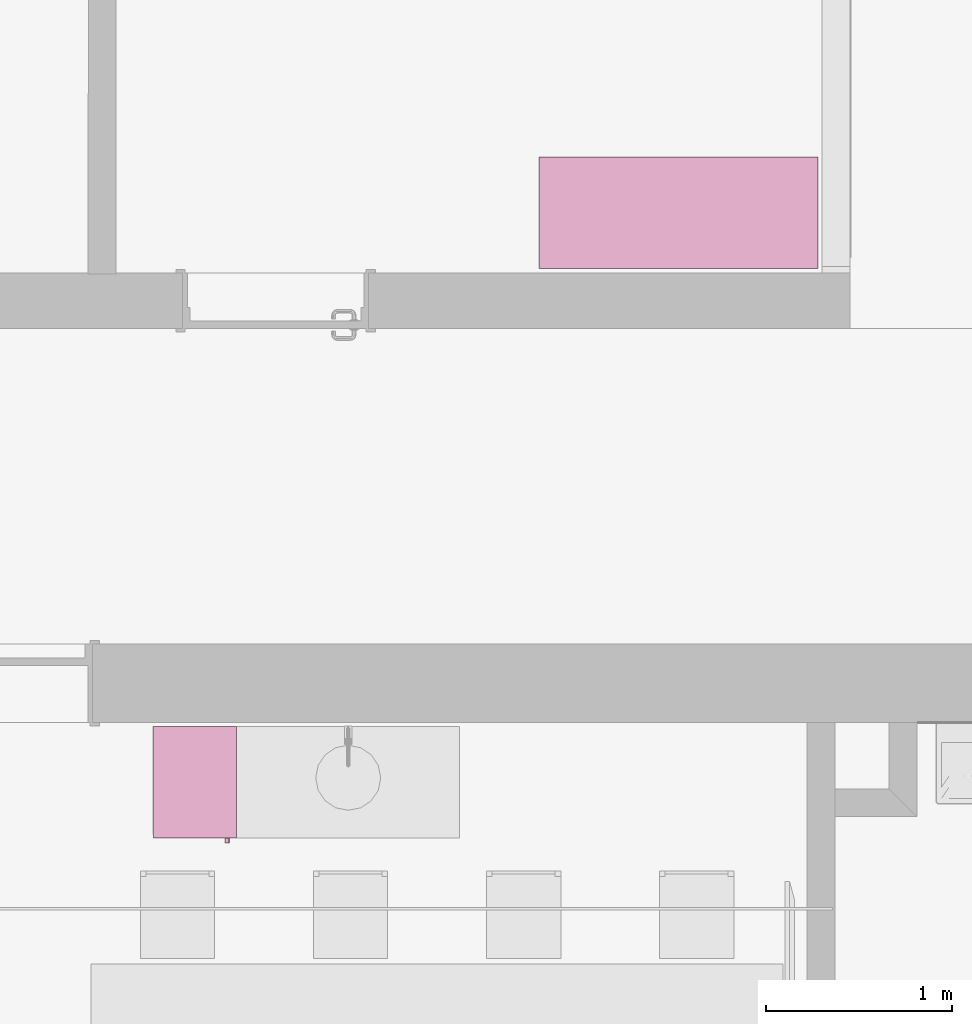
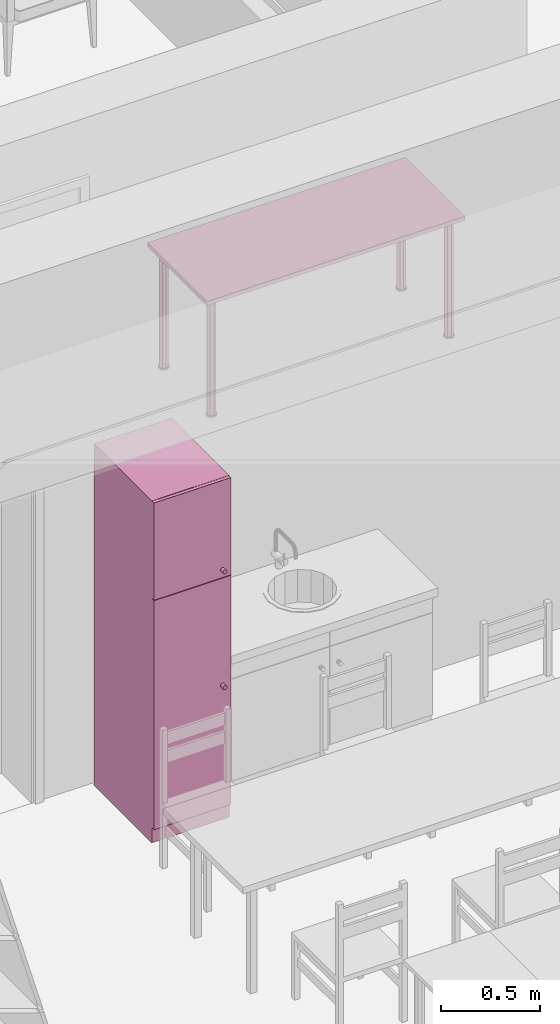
# One storey, part 137 of 194: 2 furnishings.
"""IFC2X3 building model written with IfcOpenShell, lengths in millimetres."""

from ifc_helpers import new_model, entity, si_unit, converted_unit, derived_unit, money_unit, direction, frame, origin_with_axes, place, context, subcontext, project, spatial, faceted_brep, source, transform, mapped, type_object, element, save


model = new_model("IFC2X3")

# Units and contexts
model_context = context("Model", 3, precision=1e-05, world=origin_with_axes(), true_north=direction((0.0, 1.0)))
body_context = subcontext(model_context, "Body", "Model", "MODEL_VIEW")
ifc_project = project(units=[si_unit("LENGTHUNIT", "METRE", prefix="MILLI"), si_unit("AREAUNIT", "SQUARE_METRE"), si_unit("VOLUMEUNIT", "CUBIC_METRE"), converted_unit("PLANEANGLEUNIT", "DEGREE", entity("IfcPlaneAngleMeasure", 0.0174532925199), si_unit("PLANEANGLEUNIT", "RADIAN"), dimensions=[0, 0, 0, 0, 0, 0, 0]), si_unit("SOLIDANGLEUNIT", "STERADIAN"), money_unit("EUR"), converted_unit("TIMEUNIT", "Year", entity("IfcTimeMeasure", 31556926.0), si_unit("TIMEUNIT", "SECOND"), dimensions=[0, 0, 1, 0, 0, 0, 0]), si_unit("MASSUNIT", "GRAM", prefix="KILO"), si_unit("THERMODYNAMICTEMPERATUREUNIT", "DEGREE_CELSIUS"), si_unit("LUMINOUSINTENSITYUNIT", "LUMEN"), si_unit("ENERGYUNIT", "JOULE", prefix="MEGA"), derived_unit("THERMALCONDUCTANCEUNIT", [(si_unit("POWERUNIT", "WATT"), 1), (si_unit("LENGTHUNIT", "METRE"), -1), (si_unit("THERMODYNAMICTEMPERATUREUNIT", "KELVIN"), -1)]), derived_unit("SPECIFICHEATCAPACITYUNIT", [(si_unit("ENERGYUNIT", "JOULE"), 1), (si_unit("MASSUNIT", "GRAM", prefix="KILO"), -1), (si_unit("THERMODYNAMICTEMPERATUREUNIT", "KELVIN"), -1)]), derived_unit("MASSDENSITYUNIT", [(si_unit("MASSUNIT", "GRAM", prefix="KILO"), 1), (si_unit("VOLUMEUNIT", "CUBIC_METRE"), -1)])], contexts=[model_context])

# Site, building, storey
site_placement = place(None, origin_with_axes())
site = spatial("IfcSite", under=ifc_project, at=site_placement, Name="Site", CompositionType="ELEMENT")
building_placement = place(site_placement, origin_with_axes())
building = spatial("IfcBuilding", under=site, at=building_placement, Name="Building", CompositionType="ELEMENT")
storey_placement = place(building_placement, frame((0.0, 0.0, 3000.0), z_axis=(0.0, 0.0, 1.0), x_axis=(1.0, 0.0, 0.0)))
storey = spatial("IfcBuildingStorey", under=building, at=storey_placement, Name="2 KORRUS", CompositionType="ELEMENT", Elevation=3000.0)

# Furnishings
furnishing_element_type_1 = type_object("IfcFurnishingElementType", Name="Model Element 57")
shared_shape_1 = source(origin_with_axes(), body_context, "Body", "Brep", [
    faceted_brep([(20.0, 20.0, 1490.0), (430.0, 20.0, 1490.0), (430.0, 20.0, 1510.0), (20.0, 20.0, 1510.0), (20.0, 580.0, 1490.0), (430.0, 580.0, 1490.0), (430.0, 580.0, 1510.0), (20.0, 580.0, 1510.0)], [[[0, 1, 2, 3]], [[0, 4, 5, 1]], [[1, 5, 6, 2]], [[3, 2, 6, 7]], [[4, 0, 3, 7]], [[5, 4, 7, 6]]]),
    faceted_brep([(0.0, 20.0, 0.0), (450.0, 20.0, 0.0), (450.0, 20.0, 90.0), (0.0, 20.0, 90.0), (0.0, 600.0, 0.0), (450.0, 600.0, 0.0), (450.0, 600.0, 90.0), (0.0, 600.0, 90.0)], [[[0, 1, 2, 3]], [[0, 4, 5, 1]], [[1, 5, 6, 2]], [[3, 2, 6, 7]], [[4, 0, 3, 7]], [[5, 4, 7, 6]]]),
    faceted_brep([(0.0, 20.0, 2080.0), (20.0, 20.0, 2080.0), (20.0, 20.0, 2100.0), (0.0, 20.0, 2100.0), (0.0, 600.0, 2080.0), (20.0, 600.0, 2080.0), (430.0, 600.0, 2080.0), (450.0, 600.0, 2080.0), (450.0, 20.0, 2080.0), (430.0, 20.0, 2080.0), (430.0, 20.0, 2100.0), (450.0, 20.0, 2100.0), (450.0, 600.0, 2100.0), (430.0, 600.0, 2100.0), (20.0, 600.0, 2100.0), (0.0, 600.0, 2100.0)], [[[0, 1, 2, 3]], [[0, 4, 5, 6, 7, 8, 9, 1]], [[1, 9, 10, 2]], [[3, 2, 10, 11, 12, 13, 14, 15]], [[4, 0, 3, 15]], [[5, 4, 15, 14]], [[6, 5, 14, 13]], [[7, 6, 13, 12]], [[8, 7, 12, 11]], [[9, 8, 11, 10]]]),
    faceted_brep([(0.0, 20.0, 90.0), (20.0, 20.0, 90.0), (20.0, 20.0, 110.0), (0.0, 20.0, 110.0), (0.0, 600.0, 90.0), (20.0, 600.0, 90.0), (430.0, 600.0, 90.0), (450.0, 600.0, 90.0), (450.0, 20.0, 90.0), (430.0, 20.0, 90.0), (430.0, 20.0, 110.0), (450.0, 20.0, 110.0), (450.0, 600.0, 110.0), (430.0, 600.0, 110.0), (20.0, 600.0, 110.0), (0.0, 600.0, 110.0)], [[[0, 1, 2, 3]], [[0, 4, 5, 6, 7, 8, 9, 1]], [[1, 9, 10, 2]], [[3, 2, 10, 11, 12, 13, 14, 15]], [[4, 0, 3, 15]], [[5, 4, 15, 14]], [[6, 5, 14, 13]], [[7, 6, 13, 12]], [[8, 7, 12, 11]], [[9, 8, 11, 10]]]),
    faceted_brep([(0.0, 20.0, 110.0), (20.0, 20.0, 110.0), (20.0, 20.0, 2080.0), (0.0, 20.0, 2080.0), (0.0, 600.0, 110.0), (450.0, 600.0, 110.0), (450.0, 20.0, 110.0), (430.0, 20.0, 110.0), (430.0, 580.0, 110.0), (20.0, 580.0, 110.0), (20.0, 580.0, 2080.0), (430.0, 580.0, 2080.0), (430.0, 20.0, 2080.0), (450.0, 20.0, 2080.0), (450.0, 600.0, 2080.0), (0.0, 600.0, 2080.0)], [[[0, 1, 2, 3]], [[0, 4, 5, 6, 7, 8, 9, 1]], [[1, 9, 10, 2]], [[3, 2, 10, 11, 12, 13, 14, 15]], [[4, 0, 3, 15]], [[5, 4, 15, 14]], [[6, 5, 14, 13]], [[7, 6, 13, 12]], [[8, 7, 12, 11]], [[9, 8, 11, 10]]]),
    faceted_brep([(430.0, 20.0, 546.666666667), (430.0, 580.0, 546.666666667), (430.0, 580.0, 566.666666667), (430.0, 20.0, 566.666666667), (20.0, 20.0, 546.666666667), (20.0, 580.0, 546.666666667), (20.0, 580.0, 566.666666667), (20.0, 20.0, 566.666666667)], [[[0, 1, 2, 3]], [[0, 4, 5, 1]], [[1, 5, 6, 2]], [[3, 2, 6, 7]], [[4, 0, 3, 7]], [[5, 4, 7, 6]]]),
    faceted_brep([(430.0, 20.0, 1023.33333333), (430.0, 580.0, 1023.33333333), (430.0, 580.0, 1043.33333333), (430.0, 20.0, 1043.33333333), (20.0, 20.0, 1023.33333333), (20.0, 580.0, 1023.33333333), (20.0, 580.0, 1043.33333333), (20.0, 20.0, 1043.33333333)], [[[0, 1, 2, 3]], [[0, 4, 5, 1]], [[1, 5, 6, 2]], [[3, 2, 6, 7]], [[4, 0, 3, 7]], [[5, 4, 7, 6]]]),
    faceted_brep([(1.5, 20.0, 91.5), (448.5, 20.0, 91.5), (448.5, 0.0, 91.5), (1.5, 0.0, 91.5), (1.5, 20.0, 1498.5), (448.5, 20.0, 1498.5), (448.5, 0.0, 1498.5), (1.5, 0.0, 1498.5)], [[[0, 1, 2, 3]], [[0, 4, 5, 1]], [[1, 5, 6, 2]], [[3, 2, 6, 7]], [[4, 0, 3, 7]], [[5, 4, 7, 6]]]),
    faceted_brep([(410.091109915, 0.0, 838.394171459), (408.892304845, 0.0, 835.5), (406.985281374, 0.0, 833.014718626), (404.5, 0.0, 831.107695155), (401.605828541, 0.0, 829.908890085), (398.5, 0.0, 829.5), (395.394171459, 0.0, 829.908890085), (392.5, 0.0, 831.107695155), (390.014718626, 0.0, 833.014718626), (388.107695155, 0.0, 835.5), (386.908890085, 0.0, 838.394171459), (386.5, 0.0, 841.5), (386.908890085, 0.0, 844.605828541), (388.107695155, 0.0, 847.5), (390.014718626, 0.0, 849.985281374), (392.5, 0.0, 851.892304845), (395.394171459, 0.0, 853.091109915), (398.5, 0.0, 853.5), (401.605828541, 0.0, 853.091109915), (404.5, 0.0, 851.892304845), (406.985281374, 0.0, 849.985281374), (408.892304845, 0.0, 847.5), (410.091109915, 0.0, 844.605828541), (410.5, 0.0, 841.5), (410.091109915, -25.0, 838.394171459), (408.892304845, -25.0, 835.5), (406.985281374, -25.0, 833.014718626), (404.5, -25.0, 831.107695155), (401.605828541, -25.0, 829.908890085), (398.5, -25.0, 829.5), (395.394171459, -25.0, 829.908890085), (392.5, -25.0, 831.107695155), (390.014718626, -25.0, 833.014718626), (388.107695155, -25.0, 835.5), (386.908890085, -25.0, 838.394171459), (386.5, -25.0, 841.5), (386.908890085, -25.0, 844.605828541), (388.107695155, -25.0, 847.5), (390.014718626, -25.0, 849.985281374), (392.5, -25.0, 851.892304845), (395.394171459, -25.0, 853.091109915), (398.5, -25.0, 853.5), (401.605828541, -25.0, 853.091109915), (404.5, -25.0, 851.892304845), (406.985281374, -25.0, 849.985281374), (408.892304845, -25.0, 847.5), (410.091109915, -25.0, 844.605828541), (410.5, -25.0, 841.5)], [[[0, 1, 2, 3, 4, 5, 6, 7, 8, 9, 10, 11, 12, 13, 14, 15, 16, 17, 18, 19, 20, 21, 22, 23]], [[1, 0, 24, 25]], [[2, 1, 25, 26]], [[3, 2, 26, 27]], [[4, 3, 27, 28]], [[5, 4, 28, 29]], [[6, 5, 29, 30]], [[7, 6, 30, 31]], [[8, 7, 31, 32]], [[9, 8, 32, 33]], [[10, 9, 33, 34]], [[11, 10, 34, 35]], [[12, 11, 35, 36]], [[13, 12, 36, 37]], [[14, 13, 37, 38]], [[15, 14, 38, 39]], [[16, 15, 39, 40]], [[17, 16, 40, 41]], [[18, 17, 41, 42]], [[19, 18, 42, 43]], [[20, 19, 43, 44]], [[21, 20, 44, 45]], [[22, 21, 45, 46]], [[23, 22, 46, 47]], [[0, 23, 47, 24]], [[24, 47, 46, 45, 44, 43, 42, 41, 40, 39, 38, 37, 36, 35, 34, 33, 32, 31, 30, 29, 28, 27, 26, 25]]]),
    faceted_brep([(1.5, 20.0, 1501.5), (448.5, 20.0, 1501.5), (448.5, 0.0, 1501.5), (1.5, 0.0, 1501.5), (1.5, 20.0, 2098.5), (448.5, 20.0, 2098.5), (448.5, 0.0, 2098.5), (1.5, 0.0, 2098.5)], [[[0, 1, 2, 3]], [[0, 4, 5, 1]], [[1, 5, 6, 2]], [[3, 2, 6, 7]], [[4, 0, 3, 7]], [[5, 4, 7, 6]]]),
    faceted_brep([(410.091109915, 0.0, 1548.39417146), (408.892304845, 0.0, 1545.5), (406.985281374, 0.0, 1543.01471863), (404.5, 0.0, 1541.10769515), (401.605828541, 0.0, 1539.90889008), (398.5, 0.0, 1539.5), (395.394171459, 0.0, 1539.90889008), (392.5, 0.0, 1541.10769515), (390.014718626, 0.0, 1543.01471863), (388.107695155, 0.0, 1545.5), (386.908890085, 0.0, 1548.39417146), (386.5, 0.0, 1551.5), (386.908890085, 0.0, 1554.60582854), (388.107695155, 0.0, 1557.5), (390.014718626, 0.0, 1559.98528137), (392.5, 0.0, 1561.89230485), (395.394171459, 0.0, 1563.09110992), (398.5, 0.0, 1563.5), (401.605828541, 0.0, 1563.09110992), (404.5, 0.0, 1561.89230485), (406.985281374, 0.0, 1559.98528137), (408.892304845, 0.0, 1557.5), (410.091109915, 0.0, 1554.60582854), (410.5, 0.0, 1551.5), (410.091109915, -25.0, 1548.39417146), (408.892304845, -25.0, 1545.5), (406.985281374, -25.0, 1543.01471863), (404.5, -25.0, 1541.10769515), (401.605828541, -25.0, 1539.90889008), (398.5, -25.0, 1539.5), (395.394171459, -25.0, 1539.90889008), (392.5, -25.0, 1541.10769515), (390.014718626, -25.0, 1543.01471863), (388.107695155, -25.0, 1545.5), (386.908890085, -25.0, 1548.39417146), (386.5, -25.0, 1551.5), (386.908890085, -25.0, 1554.60582854), (388.107695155, -25.0, 1557.5), (390.014718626, -25.0, 1559.98528137), (392.5, -25.0, 1561.89230485), (395.394171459, -25.0, 1563.09110992), (398.5, -25.0, 1563.5), (401.605828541, -25.0, 1563.09110992), (404.5, -25.0, 1561.89230485), (406.985281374, -25.0, 1559.98528137), (408.892304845, -25.0, 1557.5), (410.091109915, -25.0, 1554.60582854), (410.5, -25.0, 1551.5)], [[[0, 1, 2, 3, 4, 5, 6, 7, 8, 9, 10, 11, 12, 13, 14, 15, 16, 17, 18, 19, 20, 21, 22, 23]], [[1, 0, 24, 25]], [[2, 1, 25, 26]], [[3, 2, 26, 27]], [[4, 3, 27, 28]], [[5, 4, 28, 29]], [[6, 5, 29, 30]], [[7, 6, 30, 31]], [[8, 7, 31, 32]], [[9, 8, 32, 33]], [[10, 9, 33, 34]], [[11, 10, 34, 35]], [[12, 11, 35, 36]], [[13, 12, 36, 37]], [[14, 13, 37, 38]], [[15, 14, 38, 39]], [[16, 15, 39, 40]], [[17, 16, 40, 41]], [[18, 17, 41, 42]], [[19, 18, 42, 43]], [[20, 19, 43, 44]], [[21, 20, 44, 45]], [[22, 21, 45, 46]], [[23, 22, 46, 47]], [[0, 23, 47, 24]], [[24, 47, 46, 45, 44, 43, 42, 41, 40, 39, 38, 37, 36, 35, 34, 33, 32, 31, 30, 29, 28, 27, 26, 25]]]),
])
furnishing_1_placement = place(storey_placement, frame((66484.8161041, 39959.4936066, 0.0), z_axis=(0.0, 0.0, 1.0), x_axis=(1.0, 0.0, 0.0)))
element("IfcFurnishingElement", 1, at=furnishing_1_placement, inside=storey, type_object=furnishing_element_type_1, Name="FU - 016", context=body_context, shape_type="MappedRepresentation", body=[
    mapped(shared_shape_1, transform((0.0, 0.0, 0.0))),
])
furnishing_element_type_2 = type_object("IfcFurnishingElementType", Name="Model Element 54")
shared_shape_2 = source(origin_with_axes(), body_context, "Body", "Brep", [
    faceted_brep([(0.0, 0.0, 725.0), (1500.0, 0.0, 725.0), (1500.0, 0.0, 750.0), (0.0, 0.0, 750.0), (0.0, 600.0, 725.0), (1500.0, 600.0, 725.0), (1500.0, 600.0, 750.0), (0.0, 600.0, 750.0)], [[[0, 1, 2, 3]], [[0, 4, 5, 1]], [[1, 5, 6, 2]], [[3, 2, 6, 7]], [[4, 0, 3, 7]], [[5, 4, 7, 6]]]),
    faceted_brep([(77.6776695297, 77.6776695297, 10.0), (85.0, 60.0, 10.0), (77.6776695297, 42.3223304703, 10.0), (60.0, 35.0, 10.0), (42.3223304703, 42.3223304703, 10.0), (35.0, 60.0, 10.0), (42.3223304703, 77.6776695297, 10.0), (60.0, 85.0, 10.0), (77.6776695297, 77.6776695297, 725.0), (85.0, 60.0, 725.0), (77.6776695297, 42.3223304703, 725.0), (60.0, 35.0, 725.0), (42.3223304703, 42.3223304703, 725.0), (35.0, 60.0, 725.0), (42.3223304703, 77.6776695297, 725.0), (60.0, 85.0, 725.0)], [[[0, 1, 2, 3, 4, 5, 6, 7]], [[1, 0, 8, 9]], [[2, 1, 9, 10]], [[3, 2, 10, 11]], [[4, 3, 11, 12]], [[5, 4, 12, 13]], [[6, 5, 13, 14]], [[7, 6, 14, 15]], [[0, 7, 15, 8]], [[8, 15, 14, 13, 12, 11, 10, 9]]]),
    faceted_brep([(81.2132034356, 81.2132034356, 0.0), (90.0, 60.0, 0.0), (81.2132034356, 38.7867965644, 0.0), (60.0, 30.0, 0.0), (38.7867965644, 38.7867965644, 0.0), (30.0, 60.0, 0.0), (38.7867965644, 81.2132034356, 0.0), (60.0, 90.0, 0.0), (81.2132034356, 81.2132034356, 10.0), (90.0, 60.0, 10.0), (81.2132034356, 38.7867965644, 10.0), (60.0, 30.0, 10.0), (38.7867965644, 38.7867965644, 10.0), (30.0, 60.0, 10.0), (38.7867965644, 81.2132034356, 10.0), (60.0, 90.0, 10.0)], [[[0, 1, 2, 3, 4, 5, 6, 7]], [[1, 0, 8, 9]], [[2, 1, 9, 10]], [[3, 2, 10, 11]], [[4, 3, 11, 12]], [[5, 4, 12, 13]], [[6, 5, 13, 14]], [[7, 6, 14, 15]], [[0, 7, 15, 8]], [[8, 15, 14, 13, 12, 11, 10, 9]]]),
    faceted_brep([(77.6776695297, 557.67766953, 10.0), (85.0, 540.0, 10.0), (77.6776695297, 522.32233047, 10.0), (60.0, 515.0, 10.0), (42.3223304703, 522.32233047, 10.0), (35.0, 540.0, 10.0), (42.3223304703, 557.67766953, 10.0), (60.0, 565.0, 10.0), (77.6776695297, 557.67766953, 725.0), (85.0, 540.0, 725.0), (77.6776695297, 522.32233047, 725.0), (60.0, 515.0, 725.0), (42.3223304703, 522.32233047, 725.0), (35.0, 540.0, 725.0), (42.3223304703, 557.67766953, 725.0), (60.0, 565.0, 725.0)], [[[0, 1, 2, 3, 4, 5, 6, 7]], [[1, 0, 8, 9]], [[2, 1, 9, 10]], [[3, 2, 10, 11]], [[4, 3, 11, 12]], [[5, 4, 12, 13]], [[6, 5, 13, 14]], [[7, 6, 14, 15]], [[0, 7, 15, 8]], [[8, 15, 14, 13, 12, 11, 10, 9]]]),
    faceted_brep([(81.2132034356, 561.213203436, 0.0), (90.0, 540.0, 0.0), (81.2132034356, 518.786796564, 0.0), (60.0, 510.0, 0.0), (38.7867965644, 518.786796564, 0.0), (30.0, 540.0, 0.0), (38.7867965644, 561.213203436, 0.0), (60.0, 570.0, 0.0), (81.2132034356, 561.213203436, 10.0), (90.0, 540.0, 10.0), (81.2132034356, 518.786796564, 10.0), (60.0, 510.0, 10.0), (38.7867965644, 518.786796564, 10.0), (30.0, 540.0, 10.0), (38.7867965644, 561.213203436, 10.0), (60.0, 570.0, 10.0)], [[[0, 1, 2, 3, 4, 5, 6, 7]], [[1, 0, 8, 9]], [[2, 1, 9, 10]], [[3, 2, 10, 11]], [[4, 3, 11, 12]], [[5, 4, 12, 13]], [[6, 5, 13, 14]], [[7, 6, 14, 15]], [[0, 7, 15, 8]], [[8, 15, 14, 13, 12, 11, 10, 9]]]),
    faceted_brep([(1457.67766953, 77.6776695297, 10.0), (1465.0, 60.0, 10.0), (1457.67766953, 42.3223304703, 10.0), (1440.0, 35.0, 10.0), (1422.32233047, 42.3223304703, 10.0), (1415.0, 60.0, 10.0), (1422.32233047, 77.6776695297, 10.0), (1440.0, 85.0, 10.0), (1457.67766953, 77.6776695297, 725.0), (1465.0, 60.0, 725.0), (1457.67766953, 42.3223304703, 725.0), (1440.0, 35.0, 725.0), (1422.32233047, 42.3223304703, 725.0), (1415.0, 60.0, 725.0), (1422.32233047, 77.6776695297, 725.0), (1440.0, 85.0, 725.0)], [[[0, 1, 2, 3, 4, 5, 6, 7]], [[1, 0, 8, 9]], [[2, 1, 9, 10]], [[3, 2, 10, 11]], [[4, 3, 11, 12]], [[5, 4, 12, 13]], [[6, 5, 13, 14]], [[7, 6, 14, 15]], [[0, 7, 15, 8]], [[8, 15, 14, 13, 12, 11, 10, 9]]]),
    faceted_brep([(1461.21320344, 81.2132034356, 0.0), (1470.0, 60.0, 0.0), (1461.21320344, 38.7867965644, 0.0), (1440.0, 30.0, 0.0), (1418.78679656, 38.7867965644, 0.0), (1410.0, 60.0, 0.0), (1418.78679656, 81.2132034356, 0.0), (1440.0, 90.0, 0.0), (1461.21320344, 81.2132034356, 10.0), (1470.0, 60.0, 10.0), (1461.21320344, 38.7867965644, 10.0), (1440.0, 30.0, 10.0), (1418.78679656, 38.7867965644, 10.0), (1410.0, 60.0, 10.0), (1418.78679656, 81.2132034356, 10.0), (1440.0, 90.0, 10.0)], [[[0, 1, 2, 3, 4, 5, 6, 7]], [[1, 0, 8, 9]], [[2, 1, 9, 10]], [[3, 2, 10, 11]], [[4, 3, 11, 12]], [[5, 4, 12, 13]], [[6, 5, 13, 14]], [[7, 6, 14, 15]], [[0, 7, 15, 8]], [[8, 15, 14, 13, 12, 11, 10, 9]]]),
    faceted_brep([(1457.67766953, 557.67766953, 10.0), (1465.0, 540.0, 10.0), (1457.67766953, 522.32233047, 10.0), (1440.0, 515.0, 10.0), (1422.32233047, 522.32233047, 10.0), (1415.0, 540.0, 10.0), (1422.32233047, 557.67766953, 10.0), (1440.0, 565.0, 10.0), (1457.67766953, 557.67766953, 725.0), (1465.0, 540.0, 725.0), (1457.67766953, 522.32233047, 725.0), (1440.0, 515.0, 725.0), (1422.32233047, 522.32233047, 725.0), (1415.0, 540.0, 725.0), (1422.32233047, 557.67766953, 725.0), (1440.0, 565.0, 725.0)], [[[0, 1, 2, 3, 4, 5, 6, 7]], [[1, 0, 8, 9]], [[2, 1, 9, 10]], [[3, 2, 10, 11]], [[4, 3, 11, 12]], [[5, 4, 12, 13]], [[6, 5, 13, 14]], [[7, 6, 14, 15]], [[0, 7, 15, 8]], [[8, 15, 14, 13, 12, 11, 10, 9]]]),
    faceted_brep([(1461.21320344, 561.213203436, 0.0), (1470.0, 540.0, 0.0), (1461.21320344, 518.786796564, 0.0), (1440.0, 510.0, 0.0), (1418.78679656, 518.786796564, 0.0), (1410.0, 540.0, 0.0), (1418.78679656, 561.213203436, 0.0), (1440.0, 570.0, 0.0), (1461.21320344, 561.213203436, 10.0), (1470.0, 540.0, 10.0), (1461.21320344, 518.786796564, 10.0), (1440.0, 510.0, 10.0), (1418.78679656, 518.786796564, 10.0), (1410.0, 540.0, 10.0), (1418.78679656, 561.213203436, 10.0), (1440.0, 570.0, 10.0)], [[[0, 1, 2, 3, 4, 5, 6, 7]], [[1, 0, 8, 9]], [[2, 1, 9, 10]], [[3, 2, 10, 11]], [[4, 3, 11, 12]], [[5, 4, 12, 13]], [[6, 5, 13, 14]], [[7, 6, 14, 15]], [[0, 7, 15, 8]], [[8, 15, 14, 13, 12, 11, 10, 9]]]),
])
furnishing_2_placement = place(storey_placement, frame((68562.1527796, 43023.0694124, 0.0), z_axis=(0.0, 0.0, 1.0), x_axis=(1.0, 0.0, 0.0)))
element("IfcFurnishingElement", 2, at=furnishing_2_placement, inside=storey, type_object=furnishing_element_type_2, Name="FU - 007", context=body_context, shape_type="MappedRepresentation", body=[
    mapped(shared_shape_2, transform((0.0, 0.0, 0.0))),
])

save(model, "model.ifc")
